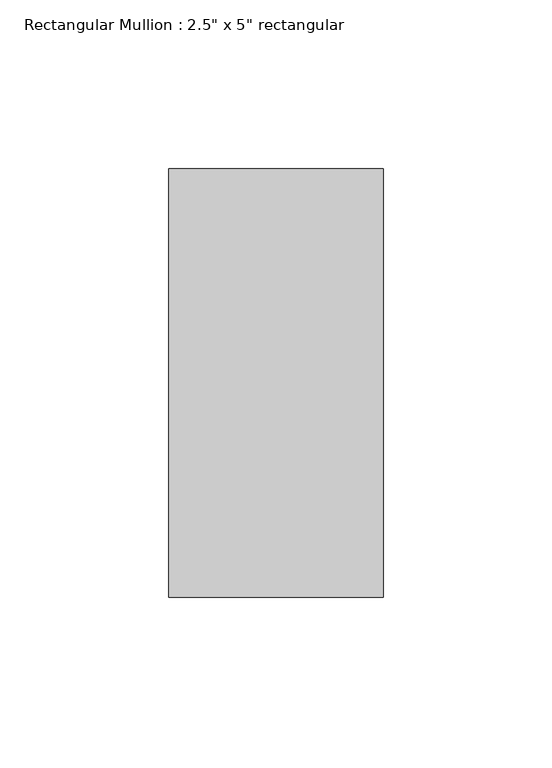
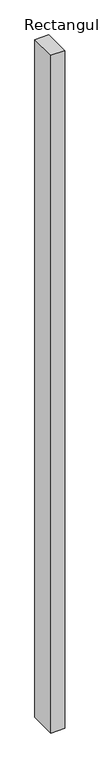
"""IFC4 building model written with IfcOpenShell, lengths in millimetres: member geometry."""

from ifc_helpers import new_model, si_unit, frame, origin, place, context, project, spatial, polyline, outline, extrude, source, transform, mapped, element, save


def member_728bf22d(model_context):
    return source(origin(), model_context, "Body", "SweptSolid", [
        extrude(outline(polyline([(31.75, 63.5), (31.75, -63.5), (-31.75, -63.5), (-31.75, 63.5), (31.75, 63.5)])), frame((0.0, 0.0, -3273.425), z_axis=(0.0, 0.0, 1.0), x_axis=(1.0, 0.0, 0.0)), (0.0, 0.0, 1.0), 3273.425),
    ])


if __name__ == "__main__":
    model = new_model("IFC4")
    model_context = context("Model", 3, world=origin())
    ifc_project = project(units=[si_unit("LENGTHUNIT", "METRE", prefix="MILLI")], contexts=[model_context])
    site = spatial("IfcSite", under=ifc_project)
    building = spatial("IfcBuilding", under=site)
    placement = place(None, origin())
    member_shape = member_728bf22d(model_context)
    element("IfcMember", 1, ObjectType="Rectangular Mullion : 2.5\" x 5\" rectangular", at=placement, inside=building, context=model_context, shape_type="MappedRepresentation", body=[
        mapped(member_shape, transform((0.0, 0.0, 0.0), x_axis=(1.0, 0.0, 0.0), y_axis=(0.0, 1.0, 0.0), z_axis=(0.0, 0.0, 1.0))),
    ])
    save(model, "model.ifc")
